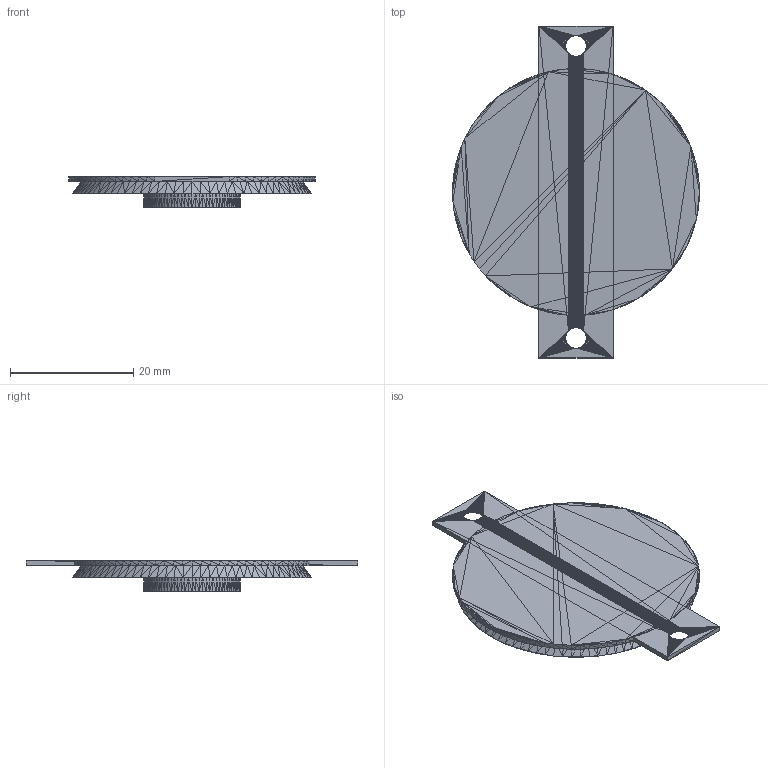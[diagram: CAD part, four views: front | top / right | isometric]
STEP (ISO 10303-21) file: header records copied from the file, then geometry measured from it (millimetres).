
FILE_DESCRIPTION(('Open CASCADE Model'),'2;1');
FILE_NAME('Open CASCADE Shape Model','2026-09-08T12:38:25',('Author'),( 'Open CASCADE'),'Open CASCADE STEP processor 7.7','Open CASCADE 7.7' ,'Unknown');
FILE_SCHEMA(('AUTOMOTIVE_DESIGN { 1 0 10303 214 1 1 1 1 }'));
Length unit declared in the file: millimetre
Products named in the file (5): Open CASCADE STEP translator 7.7 19; Open CASCADE STEP translator 7.7 19.1; Open CASCADE STEP translator 7.7 19.2; Open CASCADE STEP translator 7.7 19.3; Open CASCADE STEP translator 7.7 19.4
Assembly tree (4 placements, depth 2):
  Open CASCADE STEP translator 7.7 19
    Open CASCADE STEP translator 7.7 19.1
    Open CASCADE STEP translator 7.7 19.2
    Open CASCADE STEP translator 7.7 19.3
    Open CASCADE STEP translator 7.7 19.4
Bounding box: 40 x 53.8 x 5 mm (x, y, z)
Volume: 4111.9 mm3; surface area: 6959.8 mm2
Topology: 4 solids, 4 shells, 1688 faces, 2532 edges, 848 vertices
Faces by surface type: plane 1688
Entity records: 65936 total; most frequent: DIRECTION 10982, CARTESIAN_POINT 10137, LINE 7596, VECTOR 7596, ORIENTED_EDGE 5064, PCURVE 5064, DEFINITIONAL_REPRESENTATION 5064, EDGE_CURVE 2532
